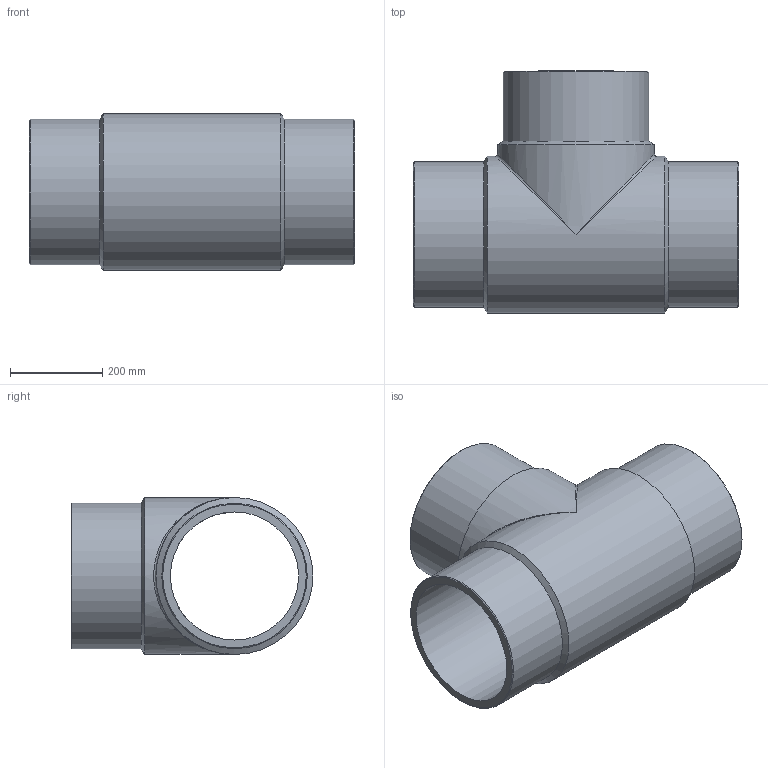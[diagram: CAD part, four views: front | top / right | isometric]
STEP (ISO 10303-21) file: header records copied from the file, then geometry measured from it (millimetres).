
FILE_DESCRIPTION(/* description */ ('Unknown'),/* implementation_level */ '2;1');
FILE_NAME(/* name */ 'TP315B',/* time_stamp */ '2021-08-10T14:25:36+02:00',/* author */ ('Unknown'),/* organization */ ('Unknown'),/* preprocessor_version */ 'ST-DEVELOPER v16.7',/* originating_system */ 'Solid Edge',/* authorisation */ 'Unknown');
FILE_SCHEMA (('AUTOMOTIVE_DESIGN {1 0 10303 214 3 1 1}'));
Length unit declared in the file: millimetre
Products named in the file (1): TP315B
Bounding box: 704 x 524 x 340 mm (x, y, z)
Volume: 20038153.5 mm3; surface area: 1700429.3 mm2
Topology: 1 solids, 1 shells, 18 faces, 44 edges, 23 vertices
Faces by surface type: cylinder 7, cone 6, plane 3, bspline 2
Full cylindrical faces by diameter (mm): 277.6 x2, 315 x3, 340 x2
Entity records: 528 total; most frequent: CARTESIAN_POINT 171, DIRECTION 76, ORIENTED_EDGE 42, AXIS2_PLACEMENT_3D 38, EDGE_LOOP 36, FACE_BOUND 36, EDGE_CURVE 21, VERTEX_POINT 19
